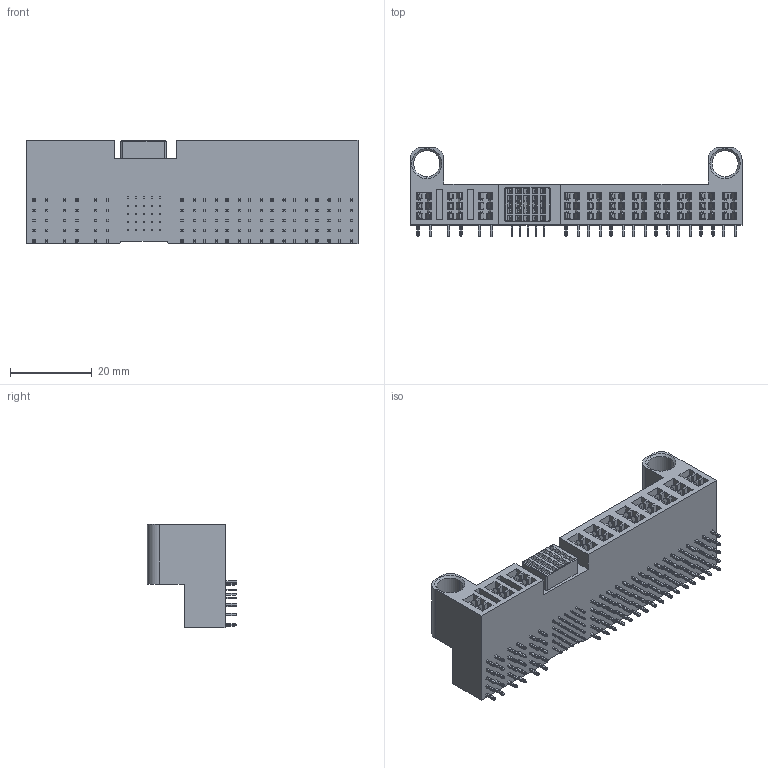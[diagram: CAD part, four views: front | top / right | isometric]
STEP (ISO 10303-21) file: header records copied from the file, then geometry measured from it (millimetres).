
FILE_DESCRIPTION (( 'STEP AP214' ), '1' );
FILE_NAME ('9395-4A03S25D08B72DNG1A.STEP', '2019-01-07T04:06:32', ( 'ADMIN' ), ( '' ), 'SwSTEP 2.0', 'SolidWorks 2011', '' );
FILE_SCHEMA (( 'AUTOMOTIVE_DESIGN' ));
Length unit declared in the file: millimetre
Products named in the file (1): 9395-4A03S25D08B72DNG1A
Bounding box: 81.21 x 21.85 x 25.22 mm (x, y, z)
Volume: 20790.2 mm3; surface area: 14990.6 mm2
Topology: 259 solids, 261 shells, 7909 faces, 20261 edges, 12976 vertices
Faces by surface type: plane 5141, cylinder 2039, bspline 540, cone 189
Entity records: 343545 total; most frequent: CARTESIAN_POINT 68405, ORIENTED_EDGE 40522, DIRECTION 35758, EDGE_CURVE 20261, LINE 14528, VECTOR 14528, VERTEX_POINT 12976, AXIS2_PLACEMENT_3D 10615
